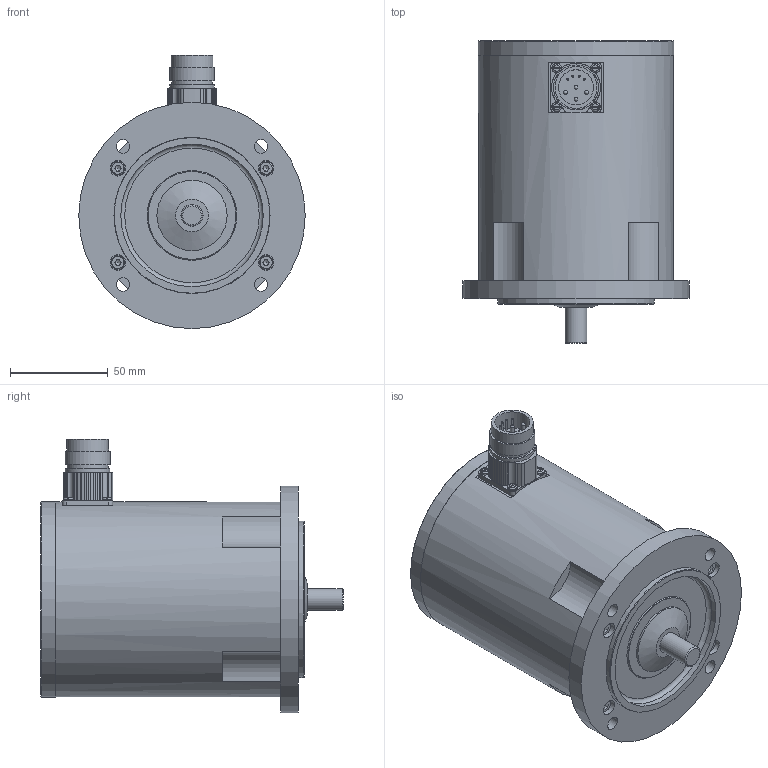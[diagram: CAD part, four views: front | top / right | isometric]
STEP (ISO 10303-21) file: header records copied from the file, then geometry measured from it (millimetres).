
FILE_DESCRIPTION(/* description */ (''),/* implementation_level */ '2;1');
FILE_NAME(/* name */ 'ksa_3x4e',/* time_stamp */ '2007-03-13T09:32:58+01:00',/* author */ (''),/* organization */ (''),/* preprocessor_version */ 'ST-DEVELOPER v8',/* originating_system */ 'UNIGRAPHICS SOLUTIONS - UNIGRAPHICS 18.0',/* authorisation */ '');
FILE_SCHEMA (('AUTOMOTIVE_DESIGN { 1 2 10303 214 0 1 1 1 }'));
Length unit declared in the file: millimetre
Products named in the file (10): din912-m4x12_A; iso1580-m2.5x6_A; 06331101_0; DIN3760_org_A15x30x7_0; 014260_0; 113045_0; Rotor_SA 34.. E_0; 113044_0; Gehaeuse SA 34.. E_0; KSA328_E_0
Assembly tree (19 placements, depth 2):
  KSA328_E_0
    Gehaeuse SA 34.. E_0
    113044_0
    Rotor_SA 34.. E_0
    113045_0
    014260_0
    DIN3760_org_A15x30x7_0
    06331101_0
    iso1580-m2.5x6_A  x4
    din912-m4x12_A  x8
Bounding box: 116 x 155 x 140 mm (x, y, z)
Volume: 494781.2 mm3; surface area: 142517.5 mm2
Topology: 19 solids, 19 shells, 458 faces, 1035 edges, 652 vertices
Faces by surface type: plane 214, cylinder 159, cone 45, torus 32, sphere 8
Full cylindrical faces by diameter (mm): 1 x4, 1.948 x4, 2 x4, 2.5 x4, 2.7 x4, 3 x8, 4 x8, 4.5 x8, 7 x12, 8 x8, 10.52 x1, 10.9 x1, 11 x1, 15 x2, 15.5 x1, 18 x1, 20 x2, 21 x1, 21.5 x1, 22 x1, 23 x2, 25 x1, 27 x1, 30 x3, 32 x1, 35 x1, 36 x1, 45 x1, 73 x1, 74 x1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
Entity records: 7263 total; most frequent: DIRECTION 1358, CARTESIAN_POINT 1193, ORIENTED_EDGE 910, AXIS2_PLACEMENT_3D 620, EDGE_LOOP 464, EDGE_CURVE 455, VERTEX_POINT 360, CIRCLE 332
